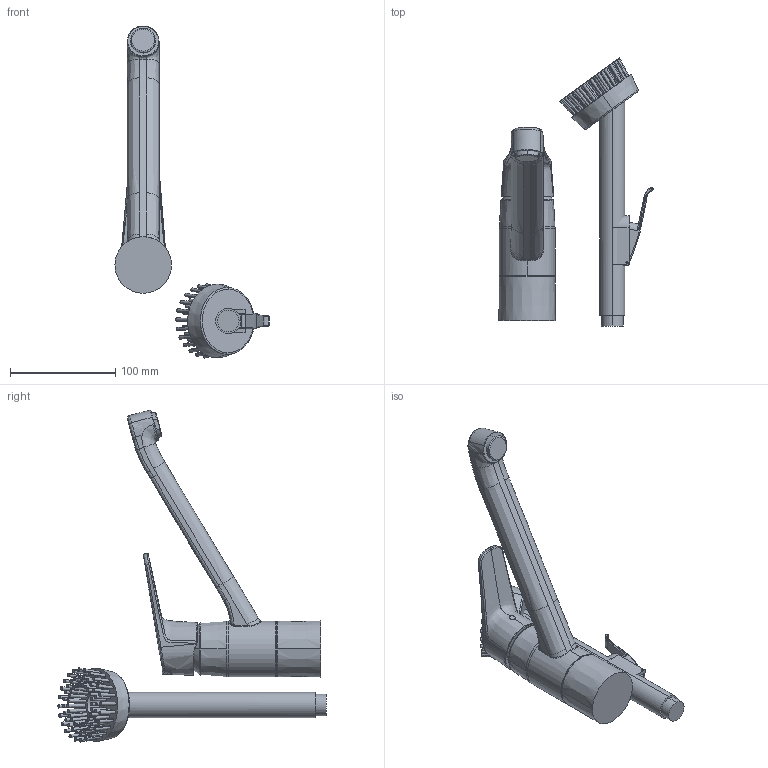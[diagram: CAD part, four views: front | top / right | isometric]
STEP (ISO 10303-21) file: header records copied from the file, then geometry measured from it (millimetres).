
FILE_DESCRIPTION (( 'STEP AP203' ), '1' );
FILE_NAME ('1828G(2018).STEP', '2019-06-03T05:40:41', ( '' ), ( '' ), 'SwSTEP 2.0', 'SolidWorks 2016', '' );
FILE_SCHEMA (( 'CONFIG_CONTROL_DESIGN' ));
Length unit declared in the file: millimetre
Products named in the file (1): 1828G(2018)
Bounding box: 146.54 x 254.81 x 315.5 mm (x, y, z)
Volume: 646495.5 mm3; surface area: 119501.1 mm2
Topology: 12 solids, 12 shells, 490 faces, 1112 edges, 711 vertices
Faces by surface type: bspline 156, cone 156, plane 124, cylinder 45, torus 8, sphere 1
Entity records: 40358 total; most frequent: CARTESIAN_POINT 31389, ORIENTED_EDGE 2220, DIRECTION 1168, EDGE_CURVE 1110, VERTEX_POINT 711, B_SPLINE_CURVE_WITH_KNOTS 566, EDGE_LOOP 559, FACE_OUTER_BOUND 490
